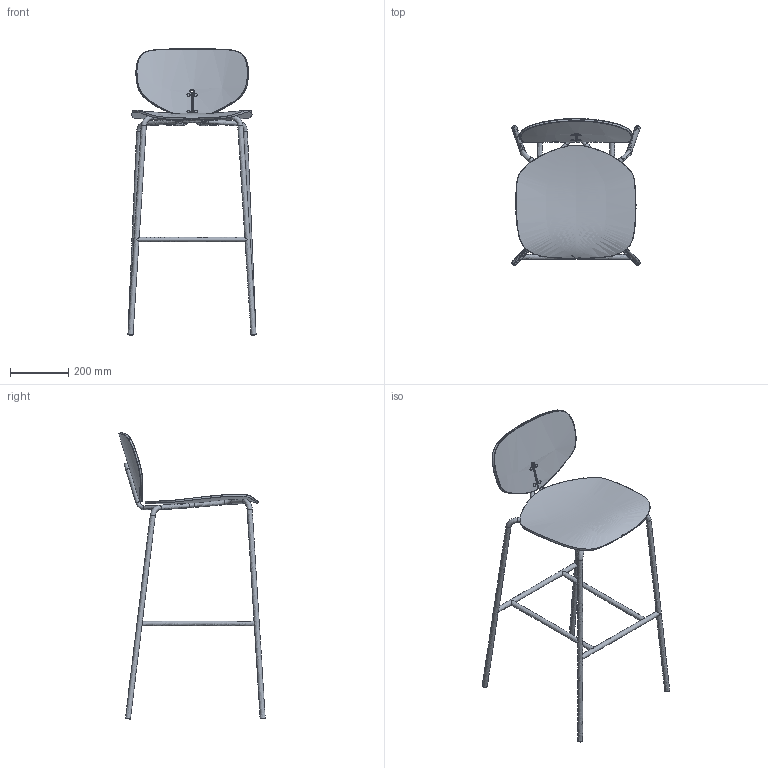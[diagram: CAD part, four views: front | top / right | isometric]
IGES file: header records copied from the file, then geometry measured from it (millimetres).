
Start section: C
Global section: file name: 2319 igs.igs; native system: By Siemens PLM Incorporated; preprocessor: XPlus GENERIC/IGES 23.0.61; author: Author; organization: Title; date: 20240305.155048; units: millimetre
Bounding box: 440.76 x 503.72 x 983.81 mm (x, y, z)
Surface area: 772190.3 mm2 (no closed solid volume)
Topology: 0 solids, 0 shells, 122 faces, 776 edges, 771 vertices
Faces by surface type: bspline 122
